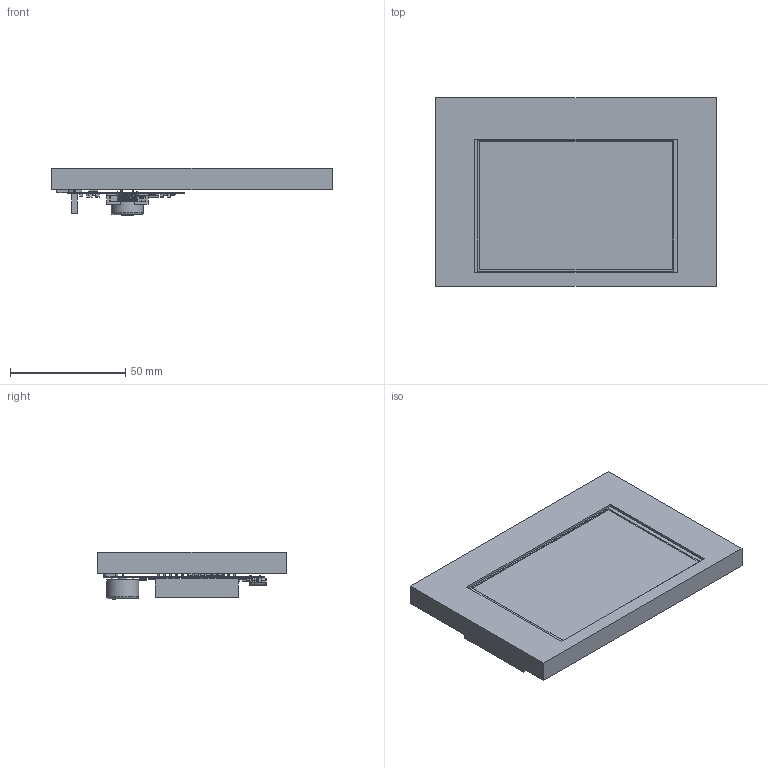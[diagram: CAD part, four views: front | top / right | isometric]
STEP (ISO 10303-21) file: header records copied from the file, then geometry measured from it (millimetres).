
FILE_DESCRIPTION(('Open CASCADE Model'),'2;1');
FILE_NAME('Open CASCADE Shape Model','2026-09-24T16:47:19',('Author'),( 'Open CASCADE'),'Open CASCADE STEP processor 8.0','Open CASCADE 8.0' ,'Unknown');
FILE_SCHEMA(('AP242_MANAGED_MODEL_BASED_3D_ENGINEERING_MIM_LF {1 0 10303 442 1 1 4 }' ));
Length unit declared in the file: millimetre
Products named in the file (2): Origin-Aligned Front Cover; Complete Native-Origin Two-PCB Assembly
Bounding box: 122 x 82 x 20.63 mm (x, y, z)
Volume: 52490.5 mm3; surface area: 100975 mm2
Topology: 339 solids, 339 shells, 6027 faces, 15354 edges, 10060 vertices
Faces by surface type: plane 4376, bspline 833, cylinder 732, sphere 35, torus 26, cone 25
Full cylindrical faces by diameter (mm): 0.2 x14, 0.4 x1, 0.5 x6, 0.65 x2, 0.95 x2, 1 x11, 1.04 x14, 1.7 x1, 1.9 x1, 2 x2, 2.2 x4, 2.9 x4, 3.2 x8, 4 x2, 4.7 x4, 6.4 x4, 14 x1
Entity records: 392603 total; most frequent: CARTESIAN_POINT 89898, DIRECTION 51806, LINE 37634, VECTOR 37634, ORIENTED_EDGE 30690, PCURVE 30690, DEFINITIONAL_REPRESENTATION 30690, EDGE_CURVE 15345
